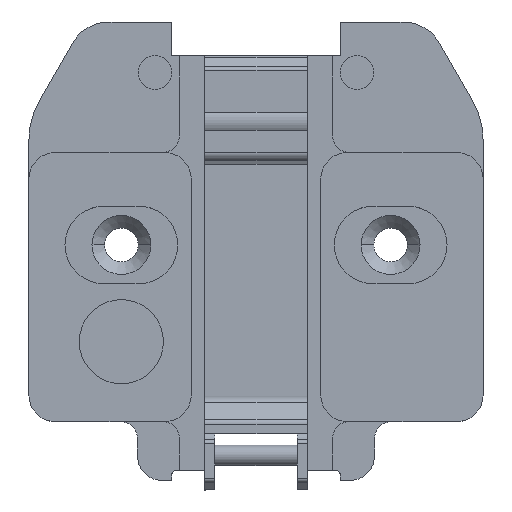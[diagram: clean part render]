
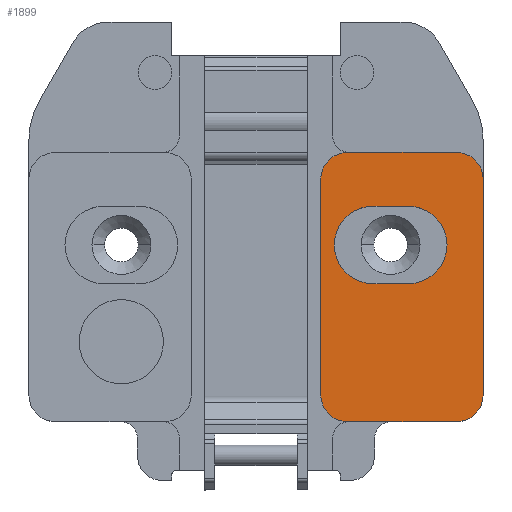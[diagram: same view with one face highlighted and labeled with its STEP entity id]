
A CAD part, top view. The second image highlights one B-rep face of the part: STEP entity #1899.
In plain terms, the highlighted planar face has unit normal (0, 0, 1).
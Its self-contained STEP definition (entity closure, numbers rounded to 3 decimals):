
#199 = EDGE_CURVE ( 'NONE', #2863, #2697, #4419, .T. ) ;
#202 = EDGE_CURVE ( 'NONE', #2959, #2863, #4425, .T. ) ;
#209 = EDGE_CURVE ( 'NONE', #2878, #2877, #4437, .T. ) ;
#210 = EDGE_CURVE ( 'NONE', #2879, #2878, #4435, .T. ) ;
#211 = EDGE_CURVE ( 'NONE', #2880, #2879, #4431, .T. ) ;
#212 = EDGE_CURVE ( 'NONE', #2877, #2880, #4445, .T. ) ;
#213 = EDGE_CURVE ( 'NONE', #2871, #2998, #4442, .T. ) ;
#214 = EDGE_CURVE ( 'NONE', #2741, #2871, #4452, .T. ) ;
#455 = AXIS2_PLACEMENT_3D ( 'NONE', #5020, #4960, #5139 ) ;
#459 = AXIS2_PLACEMENT_3D ( 'NONE', #5095, #5089, #5034 ) ;
#460 = AXIS2_PLACEMENT_3D ( 'NONE', #5103, #4975, #5096 ) ;
#461 = AXIS2_PLACEMENT_3D ( 'NONE', #4974, #4980, #5033 ) ;
#632 = AXIS2_PLACEMENT_3D ( 'NONE', #4888, #4921, #4849 ) ;
#738 = AXIS2_PLACEMENT_3D ( 'NONE', #1544, #1545, #1546 ) ;
#740 = AXIS2_PLACEMENT_3D ( 'NONE', #1575, #1576, #1577 ) ;
#891 = FACE_BOUND ( 'NONE', #4550, .T. ) ;
#900 = FACE_OUTER_BOUND ( 'NONE', #4529, .T. ) ;
#1083 = CIRCLE ( 'NONE', #738, 3.2 ) ;
#1105 = CIRCLE ( 'NONE', #740, 3.2 ) ;
#1118 = LINE ( 'NONE', #1579, #1124 ) ;
#1124 = VECTOR ( 'NONE', #1574, 1000. ) ;
#1143 = LINE ( 'NONE', #1598, #1147 ) ;
#1147 = VECTOR ( 'NONE', #1599, 1000. ) ;
#1213 = CARTESIAN_POINT ( 'NONE',  ( 34.4, 30.75, 4.9 ) ) ;
#1252 = CARTESIAN_POINT ( 'NONE',  ( 31.2, 27.55, 4.9 ) ) ;
#1374 = CARTESIAN_POINT ( 'NONE',  ( 50.5, 1.95, 4.9 ) ) ;
#1382 = CARTESIAN_POINT ( 'NONE',  ( 31.2, 1.95, 4.9 ) ) ;
#1388 = CARTESIAN_POINT ( 'NONE',  ( 41.6, 24.35, 4.9 ) ) ;
#1389 = CARTESIAN_POINT ( 'NONE',  ( 41.6, 15.15, 4.9 ) ) ;
#1390 = CARTESIAN_POINT ( 'NONE',  ( 37.4, 15.15, 4.9 ) ) ;
#1391 = CARTESIAN_POINT ( 'NONE',  ( 37.4, 24.35, 4.9 ) ) ;
#1465 = CARTESIAN_POINT ( 'NONE',  ( 47.3, -1.25, 4.9 ) ) ;
#1483 = CARTESIAN_POINT ( 'NONE',  ( 34.4, -1.25, 4.9 ) ) ;
#1544 = CARTESIAN_POINT ( 'NONE',  ( 34.4, 27.55, 4.9 ) ) ;
#1545 = DIRECTION ( 'NONE',  ( 0., 0., 1. ) ) ;
#1546 = DIRECTION ( 'NONE',  ( 1., 0., 0. ) ) ;
#1574 = DIRECTION ( 'NONE',  ( -1., 0., 0. ) ) ;
#1575 = CARTESIAN_POINT ( 'NONE',  ( 47.3, 27.55, 4.9 ) ) ;
#1576 = DIRECTION ( 'NONE',  ( 0., 0., 1. ) ) ;
#1577 = DIRECTION ( 'NONE',  ( -1., 0., 0. ) ) ;
#1579 = CARTESIAN_POINT ( 'NONE',  ( 39.6, 30.75, 4.9 ) ) ;
#1598 = CARTESIAN_POINT ( 'NONE',  ( 45.5, -1.25, 4.9 ) ) ;
#1599 = DIRECTION ( 'NONE',  ( 1., 0., 0. ) ) ;
#1899 = ADVANCED_FACE ( 'NONE', ( #891, #900 ), #4862, .T. ) ;
#2192 = ORIENTED_EDGE ( 'NONE', *, *, #3903, .T. ) ;
#2243 = ORIENTED_EDGE ( 'NONE', *, *, #209, .F. ) ;
#2244 = ORIENTED_EDGE ( 'NONE', *, *, #210, .F. ) ;
#2245 = ORIENTED_EDGE ( 'NONE', *, *, #211, .F. ) ;
#2246 = ORIENTED_EDGE ( 'NONE', *, *, #212, .F. ) ;
#2247 = ORIENTED_EDGE ( 'NONE', *, *, #213, .T. ) ;
#2249 = ORIENTED_EDGE ( 'NONE', *, *, #202, .T. ) ;
#2250 = ORIENTED_EDGE ( 'NONE', *, *, #199, .T. ) ;
#2251 = ORIENTED_EDGE ( 'NONE', *, *, #3892, .T. ) ;
#2252 = ORIENTED_EDGE ( 'NONE', *, *, #3894, .T. ) ;
#2253 = ORIENTED_EDGE ( 'NONE', *, *, #3877, .T. ) ;
#2254 = ORIENTED_EDGE ( 'NONE', *, *, #214, .T. ) ;
#2690 = VERTEX_POINT ( 'NONE', #3856 ) ;
#2697 = VERTEX_POINT ( 'NONE', #3721 ) ;
#2698 = VERTEX_POINT ( 'NONE', #1213 ) ;
#2741 = VERTEX_POINT ( 'NONE', #1252 ) ;
#2863 = VERTEX_POINT ( 'NONE', #1374 ) ;
#2871 = VERTEX_POINT ( 'NONE', #1382 ) ;
#2877 = VERTEX_POINT ( 'NONE', #1388 ) ;
#2878 = VERTEX_POINT ( 'NONE', #1389 ) ;
#2879 = VERTEX_POINT ( 'NONE', #1390 ) ;
#2880 = VERTEX_POINT ( 'NONE', #1391 ) ;
#2959 = VERTEX_POINT ( 'NONE', #1465 ) ;
#2998 = VERTEX_POINT ( 'NONE', #1483 ) ;
#3301 = DIRECTION ( 'NONE',  ( 0., 1., 0. ) ) ;
#3649 = CARTESIAN_POINT ( 'NONE',  ( 50.5, 1.95, 4.9 ) ) ;
#3721 = CARTESIAN_POINT ( 'NONE',  ( 50.5, 27.55, 4.9 ) ) ;
#3856 = CARTESIAN_POINT ( 'NONE',  ( 47.3, 30.75, 4.9 ) ) ;
#3877 = EDGE_CURVE ( 'NONE', #2698, #2741, #1083, .T. ) ;
#3892 = EDGE_CURVE ( 'NONE', #2697, #2690, #1105, .T. ) ;
#3894 = EDGE_CURVE ( 'NONE', #2690, #2698, #1118, .T. ) ;
#3903 = EDGE_CURVE ( 'NONE', #2998, #2959, #1143, .T. ) ;
#4419 = LINE ( 'NONE', #3649, #4423 ) ;
#4423 = VECTOR ( 'NONE', #3301, 1000. ) ;
#4425 = CIRCLE ( 'NONE', #455, 3.2 ) ;
#4431 = CIRCLE ( 'NONE', #460, 4.6 ) ;
#4434 = VECTOR ( 'NONE', #5117, 1000. ) ;
#4435 = LINE ( 'NONE', #5133, #4443 ) ;
#4437 = CIRCLE ( 'NONE', #459, 4.6 ) ;
#4442 = CIRCLE ( 'NONE', #461, 3.2 ) ;
#4443 = VECTOR ( 'NONE', #5013, 1000. ) ;
#4445 = LINE ( 'NONE', #5135, #4434 ) ;
#4449 = VECTOR ( 'NONE', #5092, 1000. ) ;
#4452 = LINE ( 'NONE', #5037, #4449 ) ;
#4529 = EDGE_LOOP ( 'NONE', ( #2247, #2192, #2249, #2250, #2251, #2252, #2253, #2254 ) ) ;
#4550 = EDGE_LOOP ( 'NONE', ( #2243, #2244, #2245, #2246 ) ) ;
#4849 = DIRECTION ( 'NONE',  ( 0., 1., 0. ) ) ;
#4862 = PLANE ( 'NONE',  #632 ) ;
#4888 = CARTESIAN_POINT ( 'NONE',  ( 44.1, 3.75, 4.9 ) ) ;
#4921 = DIRECTION ( 'NONE',  ( 0., 0., 1. ) ) ;
#4960 = DIRECTION ( 'NONE',  ( 0., 0., 1. ) ) ;
#4974 = CARTESIAN_POINT ( 'NONE',  ( 34.4, 1.95, 4.9 ) ) ;
#4975 = DIRECTION ( 'NONE',  ( 0., 0., 1. ) ) ;
#4980 = DIRECTION ( 'NONE',  ( 0., 0., 1. ) ) ;
#5013 = DIRECTION ( 'NONE',  ( 1., 0., 0. ) ) ;
#5020 = CARTESIAN_POINT ( 'NONE',  ( 47.3, 1.95, 4.9 ) ) ;
#5033 = DIRECTION ( 'NONE',  ( -1., 0., 0. ) ) ;
#5034 = DIRECTION ( 'NONE',  ( 0., 1., 0. ) ) ;
#5037 = CARTESIAN_POINT ( 'NONE',  ( 31.2, 27.55, 4.9 ) ) ;
#5089 = DIRECTION ( 'NONE',  ( 0., 0., 1. ) ) ;
#5092 = DIRECTION ( 'NONE',  ( 0., -1., 0. ) ) ;
#5095 = CARTESIAN_POINT ( 'NONE',  ( 41.6, 19.75, 4.9 ) ) ;
#5096 = DIRECTION ( 'NONE',  ( 0., 1., 0. ) ) ;
#5103 = CARTESIAN_POINT ( 'NONE',  ( 37.4, 19.75, 4.9 ) ) ;
#5117 = DIRECTION ( 'NONE',  ( -1., 0., 0. ) ) ;
#5133 = CARTESIAN_POINT ( 'NONE',  ( 41.6, 15.15, 4.9 ) ) ;
#5135 = CARTESIAN_POINT ( 'NONE',  ( 41.6, 24.35, 4.9 ) ) ;
#5139 = DIRECTION ( 'NONE',  ( -1., 0., 0. ) ) ;
